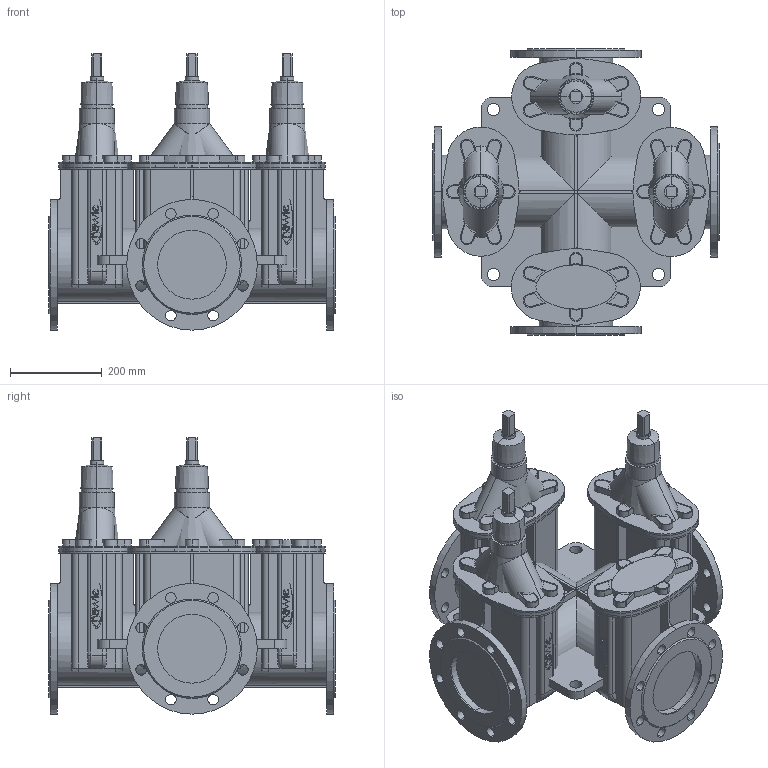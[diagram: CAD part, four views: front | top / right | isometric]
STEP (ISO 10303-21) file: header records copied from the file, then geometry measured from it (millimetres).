
FILE_DESCRIPTION(('STEP AP214'),'1');
FILE_NAME('S:/EK/USER/CAT6/3DHomepage_27-04-2012/neu_23-01-2013/4400E2/4400E2_PN16_DN150_3_9-12-3-B.STP','2013-01-23T15:02:02',(' '),(' '),'Spatial InterOp 3D',' ',' ');
FILE_SCHEMA(('automotive_design'));
Length unit declared in the file: millimetre
Products named in the file (194): 3D-Objekt
Bounding box: 625 x 625 x 602.5 mm (x, y, z)
Volume: 59999021.5 mm3; surface area: 4530996.6 mm2
Topology: 194 solids, 194 shells, 1816 faces, 4250 edges, 2830 vertices
Faces by surface type: plane 994, cylinder 764, cone 26, torus 16, bspline 16
Entity records: 71798 total; most frequent: DIRECTION 9894, CARTESIAN_POINT 9362, ORIENTED_EDGE 8500, EDGE_CURVE 4250, AXIS2_PLACEMENT_3D 3650, VERTEX_POINT 2830, LINE 2594, VECTOR 2594
